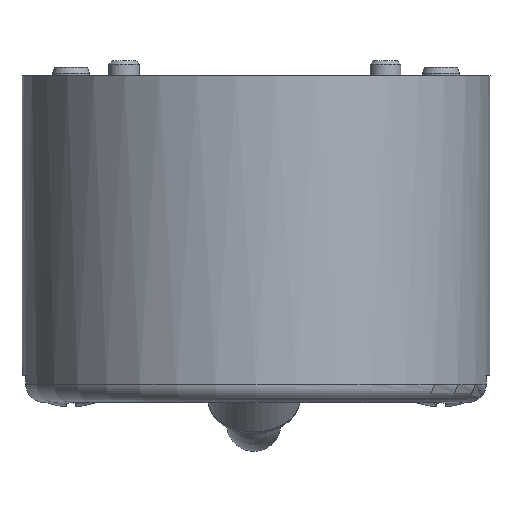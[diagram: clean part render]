
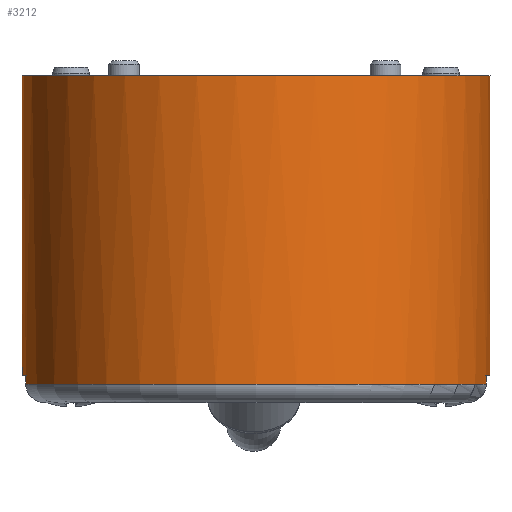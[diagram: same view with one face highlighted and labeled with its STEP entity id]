
A CAD part, left-side view. The second image highlights one B-rep face of the part: STEP entity #3212.
In plain terms, the highlighted cylindrical face has radius 19 mm (diameter 38 mm), a partial arc.
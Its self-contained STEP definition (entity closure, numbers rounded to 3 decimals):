
#3212 = ADVANCED_FACE( '', ( #7087 ), #7088, .T. );
#7087 = FACE_OUTER_BOUND( '', #11887, .T. );
#7088 = CYLINDRICAL_SURFACE( '', #11888, 19. );
#11887 = EDGE_LOOP( '', ( #21238, #21239, #21240, #21241, #21242, #21243, #21244, #21245, #21246, #21247, #21248, #21249 ) );
#11888 = AXIS2_PLACEMENT_3D( '', #21250, #21251, #21252 );
#21238 = ORIENTED_EDGE( '', *, *, #29547, .F. );
#21239 = ORIENTED_EDGE( '', *, *, #29370, .T. );
#21240 = ORIENTED_EDGE( '', *, *, #29381, .F. );
#21241 = ORIENTED_EDGE( '', *, *, #28612, .T. );
#21242 = ORIENTED_EDGE( '', *, *, #29548, .F. );
#21243 = ORIENTED_EDGE( '', *, *, #26354, .T. );
#21244 = ORIENTED_EDGE( '', *, *, #28474, .T. );
#21245 = ORIENTED_EDGE( '', *, *, #29549, .F. );
#21246 = ORIENTED_EDGE( '', *, *, #29479, .T. );
#21247 = ORIENTED_EDGE( '', *, *, #29550, .T. );
#21248 = ORIENTED_EDGE( '', *, *, #29551, .T. );
#21249 = ORIENTED_EDGE( '', *, *, #29552, .T. );
#21250 = CARTESIAN_POINT( '', ( 29.897, 36.222, -23.5 ) );
#21251 = DIRECTION( '', ( 0., 0., 1. ) );
#21252 = DIRECTION( '', ( 0., -1., 0. ) );
#26354 = EDGE_CURVE( '', #31430, #31434, #31436, .T. );
#28474 = EDGE_CURVE( '', #31434, #34869, #34870, .T. );
#28612 = EDGE_CURVE( '', #35063, #35068, #35070, .T. );
#29370 = EDGE_CURVE( '', #34273, #36112, #36114, .T. );
#29381 = EDGE_CURVE( '', #35063, #36112, #36127, .T. );
#29479 = EDGE_CURVE( '', #36264, #36262, #36265, .T. );
#29547 = EDGE_CURVE( '', #34273, #36353, #36354, .T. );
#29548 = EDGE_CURVE( '', #31430, #35068, #36355, .T. );
#29549 = EDGE_CURVE( '', #36264, #34869, #36356, .T. );
#29550 = EDGE_CURVE( '', #36262, #32558, #36357, .T. );
#29551 = EDGE_CURVE( '', #32558, #36358, #36359, .T. );
#29552 = EDGE_CURVE( '', #36358, #36353, #36360, .T. );
#31430 = VERTEX_POINT( '', #38810 );
#31434 = VERTEX_POINT( '', #38827 );
#31436 = CIRCLE( '', #38842, 19. );
#32558 = VERTEX_POINT( '', #40443 );
#34273 = VERTEX_POINT( '', #42918 );
#34869 = VERTEX_POINT( '', #43815 );
#34870 = LINE( '', #43816, #43817 );
#35063 = VERTEX_POINT( '', #44078 );
#35068 = VERTEX_POINT( '', #44084 );
#35070 = CIRCLE( '', #44087, 19. );
#36112 = VERTEX_POINT( '', #45614 );
#36114 = CIRCLE( '', #45629, 19. );
#36127 = LINE( '', #45646, #45647 );
#36262 = VERTEX_POINT( '', #45839 );
#36264 = VERTEX_POINT( '', #45854 );
#36265 = LINE( '', #45855, #45856 );
#36353 = VERTEX_POINT( '', #45988 );
#36354 = LINE( '', #45989, #45990 );
#36355 = LINE( '', #45991, #45992 );
#36356 = CIRCLE( '', #45993, 19. );
#36357 = CIRCLE( '', #45994, 19. );
#36358 = VERTEX_POINT( '', #45995 );
#36359 = LINE( '', #45996, #45997 );
#36360 = CIRCLE( '', #45998, 19. );
#38810 = CARTESIAN_POINT( '', ( 26.397, 54.897, -22. ) );
#38827 = CARTESIAN_POINT( '', ( 26.397, 17.547, -22. ) );
#38842 = AXIS2_PLACEMENT_3D( '', #48198, #48199, #48200 );
#40443 = CARTESIAN_POINT( '', ( 33.941, 17.657, -22. ) );
#42918 = CARTESIAN_POINT( '', ( 33.941, 54.787, -22. ) );
#43815 = CARTESIAN_POINT( '', ( 26.397, 17.547, -21.3 ) );
#43816 = CARTESIAN_POINT( '', ( 26.397, 17.547, -23.5 ) );
#43817 = VECTOR( '', #50623, 1000. );
#44078 = CARTESIAN_POINT( '', ( 33.397, 54.897, -21.3 ) );
#44084 = CARTESIAN_POINT( '', ( 26.397, 54.897, -21.3 ) );
#44087 = AXIS2_PLACEMENT_3D( '', #50796, #50797, #50798 );
#45614 = CARTESIAN_POINT( '', ( 33.397, 54.897, -22. ) );
#45629 = AXIS2_PLACEMENT_3D( '', #51579, #51580, #51581 );
#45646 = CARTESIAN_POINT( '', ( 33.397, 54.897, -23.5 ) );
#45647 = VECTOR( '', #51592, 1000. );
#45839 = CARTESIAN_POINT( '', ( 33.397, 17.547, -22. ) );
#45854 = CARTESIAN_POINT( '', ( 33.397, 17.547, -21.3 ) );
#45855 = CARTESIAN_POINT( '', ( 33.397, 17.547, -23.5 ) );
#45856 = VECTOR( '', #51684, 1000. );
#45988 = CARTESIAN_POINT( '', ( 33.941, 54.787, 3. ) );
#45989 = CARTESIAN_POINT( '', ( 33.941, 54.787, -23.5 ) );
#45990 = VECTOR( '', #51740, 1000. );
#45991 = CARTESIAN_POINT( '', ( 26.397, 54.897, -23.5 ) );
#45992 = VECTOR( '', #51741, 1000. );
#45993 = AXIS2_PLACEMENT_3D( '', #51742, #51743, #51744 );
#45994 = AXIS2_PLACEMENT_3D( '', #51745, #51746, #51747 );
#45995 = CARTESIAN_POINT( '', ( 33.941, 17.657, 3. ) );
#45996 = CARTESIAN_POINT( '', ( 33.941, 17.657, -23.5 ) );
#45997 = VECTOR( '', #51748, 1000. );
#45998 = AXIS2_PLACEMENT_3D( '', #51749, #51750, #51751 );
#48198 = CARTESIAN_POINT( '', ( 29.897, 36.222, -22. ) );
#48199 = DIRECTION( '', ( 0., 0., 1. ) );
#48200 = DIRECTION( '', ( 0., -1., 0. ) );
#50623 = DIRECTION( '', ( 0., 0., 1. ) );
#50796 = CARTESIAN_POINT( '', ( 29.897, 36.222, -21.3 ) );
#50797 = DIRECTION( '', ( 0., 0., 1. ) );
#50798 = DIRECTION( '', ( 0., 1., 0. ) );
#51579 = CARTESIAN_POINT( '', ( 29.897, 36.222, -22. ) );
#51580 = DIRECTION( '', ( 0., 0., 1. ) );
#51581 = DIRECTION( '', ( 0., -1., 0. ) );
#51592 = DIRECTION( '', ( 0., 0., -1. ) );
#51684 = DIRECTION( '', ( 0., 0., -1. ) );
#51740 = DIRECTION( '', ( 0., 0., 1. ) );
#51741 = DIRECTION( '', ( 0., 0., 1. ) );
#51742 = CARTESIAN_POINT( '', ( 29.897, 36.222, -21.3 ) );
#51743 = DIRECTION( '', ( 0., 0., -1. ) );
#51744 = DIRECTION( '', ( 0., -1., 0. ) );
#51745 = CARTESIAN_POINT( '', ( 29.897, 36.222, -22. ) );
#51746 = DIRECTION( '', ( 0., 0., 1. ) );
#51747 = DIRECTION( '', ( 0., -1., 0. ) );
#51748 = DIRECTION( '', ( 0., 0., 1. ) );
#51749 = CARTESIAN_POINT( '', ( 29.897, 36.222, 3. ) );
#51750 = DIRECTION( '', ( 0., 0., -1. ) );
#51751 = DIRECTION( '', ( 1., 0., 0. ) );
